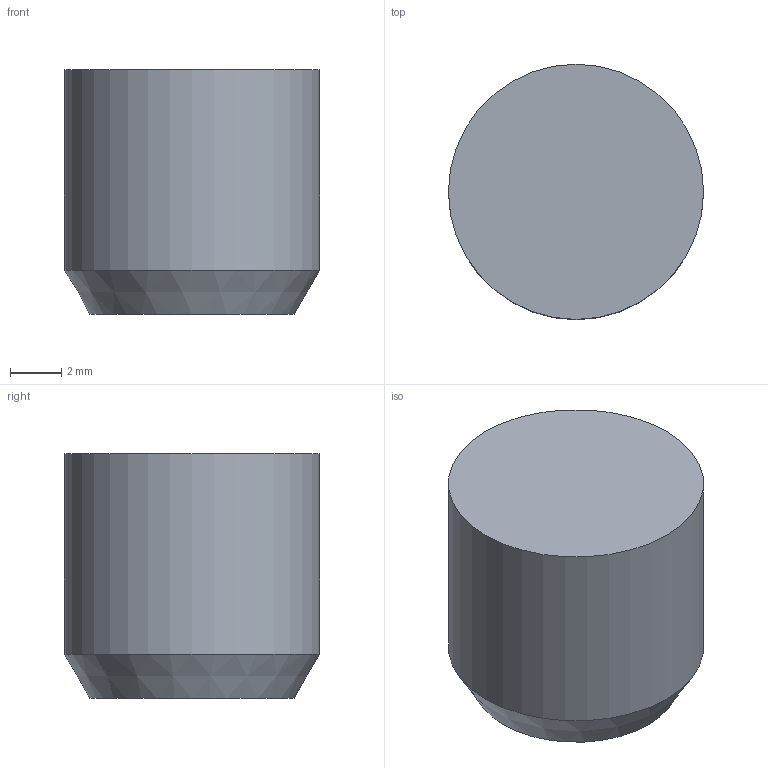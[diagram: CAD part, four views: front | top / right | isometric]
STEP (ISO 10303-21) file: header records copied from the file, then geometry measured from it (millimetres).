
FILE_DESCRIPTION(/* description */ ('Bushing'),/* implementation_level */ '2;1');
FILE_NAME(/* name */ 'ITPTv2.02.00.08.stp',/* time_stamp */ '2025-02-12T11:25:09+01:00',/* author */ ('Rüdiger Widera'),/* organization */ (''),/* preprocessor_version */ 'ST-DEVELOPER v19.2',/* originating_system */ 'Autodesk Inventor 2024',/* authorisation */ '');
FILE_SCHEMA (('AUTOMOTIVE_DESIGN { 1 0 10303 214 3 1 1 }'));
Length unit declared in the file: millimetre
Products named in the file (1): ITPTv2.02.00.08
Bounding box: 10 x 10 x 9.6 mm (x, y, z)
Volume: 728.6 mm3; surface area: 432.5 mm2
Topology: 1 solids, 1 shells, 4 faces, 6 edges, 4 vertices
Faces by surface type: plane 2, cone 1, cylinder 1
Full cylindrical faces by diameter (mm): 10 x1
Entity records: 137 total; most frequent: DIRECTION 20, CARTESIAN_POINT 15, ORIENTED_EDGE 12, AXIS2_PLACEMENT_3D 9, EDGE_CURVE 6, FACE_OUTER_BOUND 4, EDGE_LOOP 4, CIRCLE 4
